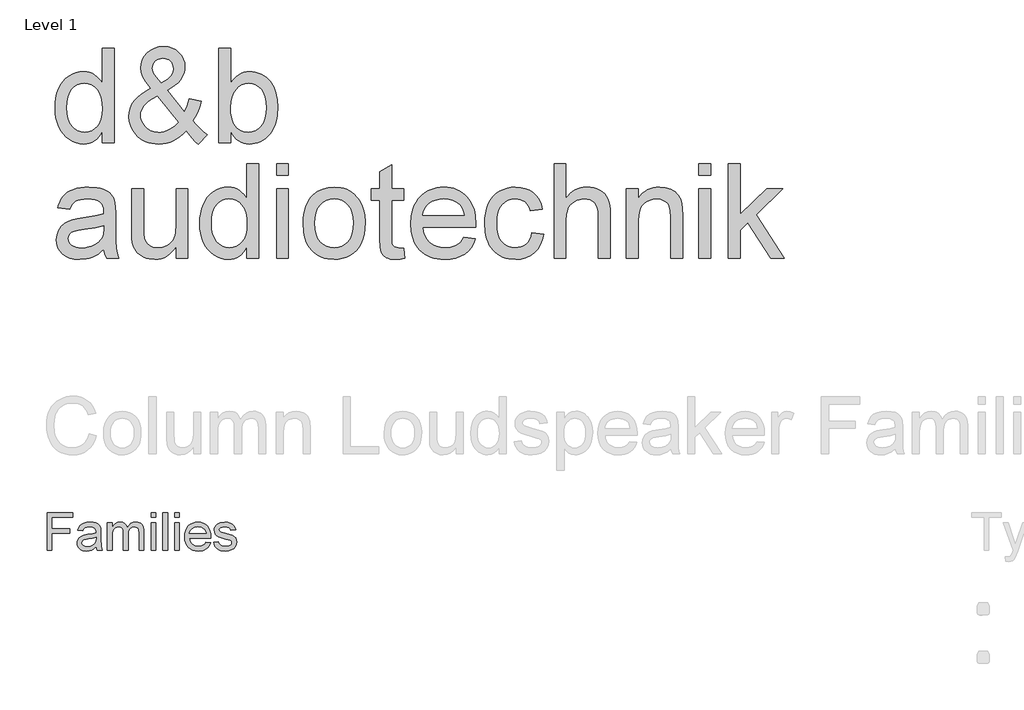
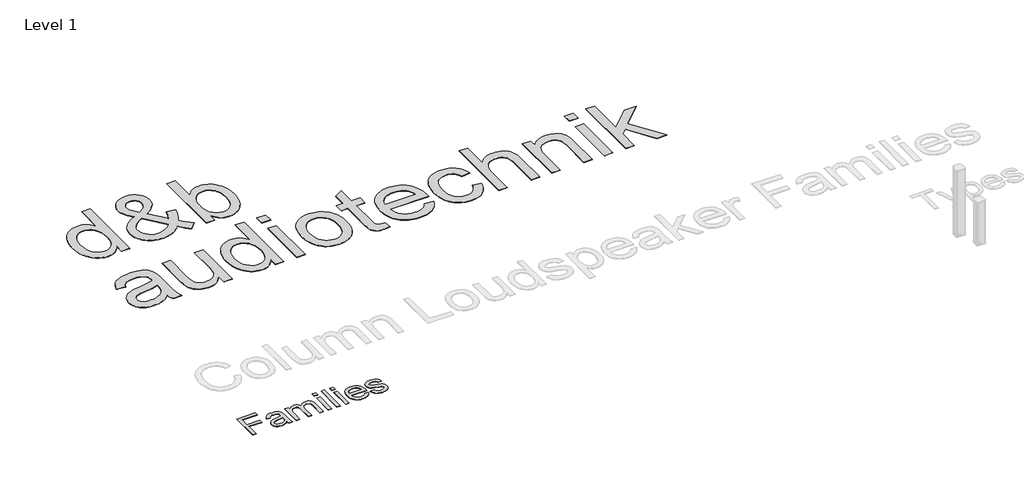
# One storey, part 5 of 8: 2 proxies.
"""IFC4 building model written with IfcOpenShell, lengths in millimetres."""

import ifcopenshell
import ifcopenshell.guid

model = None  # the IFC model being written
_history = None  # IfcOwnerHistory: only IFC2X3 demands one
_inside = {}  # id of a spatial element -> (the spatial element, [elements in it])
_under = {}  # id of a project, library or spatial element -> (it, [spatial elements below it])
_declared = {}  # id of a project -> (the project, [libraries it declares])
_typed = {}  # id of a type object -> (the type object, [elements of that type])
_made_of = {}  # id of a material, layer set ... -> (it, [elements and type objects made of it])


def new_model(schema):
    """Start an empty IFC model of exactly this schema.

    Asked for "IFC4X3", IfcOpenShell would pick the latest addendum, in which some entities
    have other attributes; the version numbers below select the first issue.
    IFC2X3 requires an IfcOwnerHistory on every rooted entity: one is made here for all.
    """
    global model, _history
    if schema == "IFC4X3":
        model = ifcopenshell.file(schema_version=(4, 3, 0, 0))
    else:
        model = ifcopenshell.file(schema=schema)
    _inside.clear()
    _under.clear()
    _declared.clear()
    _typed.clear()
    _made_of.clear()
    _history = None
    if model.schema == "IFC2X3":
        org = make("IfcOrganization", Name="unknown")
        user = make(
            "IfcPersonAndOrganization",
            ThePerson=make("IfcPerson", FamilyName="unknown"),
            TheOrganization=org,
        )
        app = make(
            "IfcApplication",
            ApplicationDeveloper=org,
            Version="unknown",
            ApplicationFullName="unknown",
            ApplicationIdentifier="unknown",
        )
        _history = make(
            "IfcOwnerHistory",
            OwningUser=user,
            OwningApplication=app,
            ChangeAction="ADDED",
            CreationDate=0,
        )
    return model


def make(cls, **values):
    """One entity of the class cls with the attributes given. An attribute that is None is left unset."""
    return model.create_entity(
        cls, **{name: value for name, value in values.items() if value is not None}
    )


def rooted(cls, **values):
    """An entity with a GlobalId (a new one), such as an element, a storey or a relation."""
    return make(cls, GlobalId=ifcopenshell.guid.new(), OwnerHistory=_history, **values)


def si_unit(unit_type, name, prefix=None):
    """IfcSIUnit, for example si_unit("LENGTHUNIT", "METRE", prefix="MILLI")."""
    return make("IfcSIUnit", UnitType=unit_type, Prefix=prefix, Name=name)


def assignment(units):
    """IfcUnitAssignment: the units of a project."""
    return None if units is None else make("IfcUnitAssignment", Units=units)


def point(xyz):
    """IfcCartesianPoint."""
    return None if xyz is None else make("IfcCartesianPoint", Coordinates=xyz)


def direction(xyz):
    """IfcDirection."""
    return None if xyz is None else make("IfcDirection", DirectionRatios=xyz)


def frame(location, z_axis=None, x_axis=None):
    """IfcAxis2Placement3D, a coordinate frame: its origin and axes. An axis left out is left unset."""
    return make(
        "IfcAxis2Placement3D",
        Location=point(location),
        Axis=direction(z_axis),
        RefDirection=direction(x_axis),
    )


def origin():
    """The frame at (0, 0, 0) with its axes left unset."""
    return frame((0.0, 0.0, 0.0))


def origin_with_axes():
    """The frame at (0, 0, 0) with the z axis (0, 0, 1) and the x axis (1, 0, 0) written out."""
    return frame((0.0, 0.0, 0.0), z_axis=(0.0, 0.0, 1.0), x_axis=(1.0, 0.0, 0.0))


def place(relative_to, where):
    """IfcLocalPlacement: puts the frame where relative to a parent placement (None: the world)."""
    return make(
        "IfcLocalPlacement", PlacementRelTo=relative_to, RelativePlacement=where
    )


def context(
    kind, dimensions, precision=None, world=None, true_north=None, identifier=None
):
    """IfcGeometricRepresentationContext, for example the 3D "Model" context."""
    return make(
        "IfcGeometricRepresentationContext",
        ContextIdentifier=identifier,
        ContextType=kind,
        CoordinateSpaceDimension=dimensions,
        Precision=precision,
        WorldCoordinateSystem=world,
        TrueNorth=true_north,
    )


def project(units=None, contexts=None):
    """IfcProject with its units and contexts."""
    return rooted(
        "IfcProject",
        Name="project",
        RepresentationContexts=contexts,
        UnitsInContext=assignment(units),
    )


def spatial(cls, under=None, at=None, **own):
    """A site, building, storey or space (cls), placed at a placement, below another one or the project."""
    s = rooted(cls, ObjectPlacement=at, **own)
    if under is not None:
        _under.setdefault(under.id(), (under, []))[1].append(s)
    return s


def polyline(points):
    """IfcPolyline through the points."""
    return make("IfcPolyline", Points=[point(p) for p in points])


def outline(outer, holes=None, kind="AREA"):
    """IfcArbitraryClosedProfileDef: a profile drawn as a closed curve; with holes, ...WithVoids."""
    if holes is None:
        return make("IfcArbitraryClosedProfileDef", ProfileType=kind, OuterCurve=outer)
    return make(
        "IfcArbitraryProfileDefWithVoids",
        ProfileType=kind,
        OuterCurve=outer,
        InnerCurves=holes,
    )


def extrude(swept, where, along, depth):
    """IfcExtrudedAreaSolid: the profile swept, set in the frame where, extruded along a direction by depth."""
    return make(
        "IfcExtrudedAreaSolid",
        SweptArea=swept,
        Position=where,
        ExtrudedDirection=direction(along),
        Depth=depth,
    )


def shape(context_of_items, identifier, shape_type, items):
    """IfcShapeRepresentation: the items that make up one representation, for example the "Body"."""
    return make(
        "IfcShapeRepresentation",
        ContextOfItems=context_of_items,
        RepresentationIdentifier=identifier,
        RepresentationType=shape_type,
        Items=items,
    )


def made_of(thing, what):
    """Note that an element or type object is made of a material, layer set ...; save() writes the relation."""
    if what is not None:
        _made_of.setdefault(what.id(), (what, []))[1].append(thing)
    return thing


def element(
    cls,
    number,
    at=None,
    inside=None,
    cuts=None,
    type_object=None,
    material=None,
    context=None,
    identifier="Body",
    shape_type=None,
    held_by="IfcProductDefinitionShape",
    body=None,
    shapes=None,
    **own,
):
    """One element of the class cls, such as IfcWall. Its Tag is "e" and its number.

    at: its placement. inside: the storey or other place that contains it. cuts: it is an
    opening in that element (IfcRelVoidsElement). A single representation is given by context,
    identifier, shape_type and body (its items); several are given by shapes. held_by: the class
    of the entity that holds the representations. save() writes the other relations.
    """
    e = rooted(cls, Tag="e%d" % number, ObjectPlacement=at, **own)
    if body is not None:
        shapes = [shape(context, identifier, shape_type, body)]
    if shapes is not None:
        e.Representation = make(held_by, Representations=shapes)
    if inside is not None:
        _inside.setdefault(inside.id(), (inside, []))[1].append(e)
    if cuts is not None:
        rooted(
            "IfcRelVoidsElement", RelatingBuildingElement=cuts, RelatedOpeningElement=e
        )
    if type_object is not None:
        _typed.setdefault(type_object.id(), (type_object, []))[1].append(e)
    return made_of(e, material)


def aggregate(whole, parts):
    """IfcRelAggregates: a whole, such as a stair, and the parts it consists of."""
    return rooted("IfcRelAggregates", RelatingObject=whole, RelatedObjects=parts)


def save(model, path):
    """Write the relations noted so far, then the file.

    IfcRelAggregates (storeys below a building ...), IfcRelContainedInSpatialStructure (elements
    in a storey), IfcRelDefinesByType, IfcRelAssociatesMaterial and IfcRelDeclares: one each for
    every whole, place, type object, material and project.
    """
    for whole, parts in _under.values():
        aggregate(whole, parts)
    for where, things in _inside.values():
        rooted(
            "IfcRelContainedInSpatialStructure",
            RelatedElements=things,
            RelatingStructure=where,
        )
    for kind, things in _typed.values():
        rooted("IfcRelDefinesByType", RelatedObjects=things, RelatingType=kind)
    for what, things in _made_of.values():
        rooted("IfcRelAssociatesMaterial", RelatedObjects=things, RelatingMaterial=what)
    for by, libraries in _declared.values():
        rooted("IfcRelDeclares", RelatingContext=by, RelatedDefinitions=libraries)
    model.write(path)


model = new_model("IFC4")

# Units and contexts
model_context = context("Model", 3, world=origin())
ifc_project = project(units=[si_unit("LENGTHUNIT", "METRE", prefix="MILLI")], contexts=[model_context])

# Site, building, storey
site = spatial("IfcSite", under=ifc_project)
building = spatial("IfcBuilding", under=site)
storey = spatial("IfcBuildingStorey", under=building, Name="Level 1", Elevation=0.0)

# Proxies
placement = place(None, origin())
element("IfcBuildingElementProxy", 1, Name="1000mm Arial", ObjectType="1000mm Arial", at=placement, inside=storey, context=model_context, shape_type="SweptSolid", body=[
    extrude(outline(polyline([(-20485.0918031, 21579.111869), (-20485.0918031, 21694.6019258), (-20502.4384754, 21663.947296), (-20521.720443, 21637.3799502), (-20542.937706, 21614.8998883), (-20566.0902643, 21596.5071105), (-20591.1781179, 21582.2016166), (-20618.2012669, 21571.9834066), (-20647.1597112, 21565.8524807), (-20678.0534508, 21563.8088387), (-20718.4630152, 21566.7678231), (-20757.1988107, 21575.6447762), (-20794.2608372, 21590.4396981), (-20829.6490948, 21611.1525887), (-20862.2577004, 21637.1632569), (-20890.9807709, 21667.8515115), (-20915.8183064, 21703.2173525), (-20936.7703069, 21743.26078), (-20953.4033857, 21787.2196312), (-20965.2841563, 21834.3317435), (-20972.4126187, 21884.597117), (-20974.7887728, 21938.0157516), (-20972.5994233, 21990.4555302), (-20966.0313746, 22040.4145442), (-20955.0846269, 22087.8927935), (-20939.75918, 22132.8902781), (-20920.0625062, 22174.0918939), (-20896.0020777, 22210.1825366), (-20867.5778945, 22241.1622064), (-20834.7899565, 22267.0309031), (-20798.7964521, 22287.429962), (-20760.7555697, 22302.0007184), (-20720.6673091, 22310.7431723), (-20678.5316705, 22313.6573235), (-20647.7163888, 22311.5725845), (-20618.6346535, 22305.3183676), (-20591.2864646, 22294.8946726), (-20565.671822, 22280.3014997), (-20542.0746689, 22262.3757332), (-20520.778948, 22241.9542577), (-20501.7846594, 22219.0370732), (-20485.0918031, 22193.6241796), (-20485.0918031, 22558.5058084), (-20362.6675607, 22558.5058084), (-20362.6675607, 21579.111869), (-20485.0918031, 21579.111869)]), holes=[polyline([(-20852.3645304, 21938.4939713), (-20848.9123819, 21879.1274792), (-20838.5559366, 21827.7562227), (-20821.2951944, 21784.3802017), (-20797.1301554, 21748.9994163), (-20768.2725855, 21721.5391447), (-20736.934251, 21701.9246649), (-20703.1151518, 21690.1559771), (-20666.815288, 21686.2330811), (-20630.3435639, 21689.9766447), (-20596.7262136, 21701.2073354), (-20565.9632372, 21719.9251532), (-20538.0546345, 21746.1300982), (-20514.8833958, 21780.0313914), (-20498.332511, 21821.8382539), (-20488.4019801, 21871.5506859), (-20485.0918031, 21929.1686872), (-20488.4617575, 21992.3385203), (-20498.5716208, 22046.5118453), (-20515.4213929, 22091.6886623), (-20539.0110739, 22127.8689713), (-20567.5323956, 22155.5907693), (-20599.1770896, 22175.3920537), (-20633.945156, 22187.2728242), (-20671.8365948, 22191.2330811), (-20708.8537882, 22187.4297401), (-20742.6728874, 22176.019717), (-20773.2938924, 22157.0030119), (-20800.7168031, 22130.3796247), (-20823.3126838, 22095.5667252), (-20839.4525986, 22051.9814831), (-20849.1365474, 21999.6238985), (-20852.3645304, 21938.4939713)])]), origin_with_axes(), (0.0, 0.0, 1.0), 5.0),
    extrude(outline(polyline([(-19617.362163, 21700.1014523), (-19647.8038355, 21668.157871), (-19679.590501, 21640.4734339), (-19712.7221594, 21617.0481409), (-19747.1988107, 21597.8819921), (-19783.0503436, 21582.9749875), (-19820.3066469, 21572.327127), (-19858.9677205, 21565.9384108), (-19899.0335645, 21563.8088387), (-19935.7219818, 21565.3854693), (-19970.4676317, 21570.1153609), (-20003.270514, 21577.9985138), (-20034.1306289, 21589.0349277), (-20063.0479762, 21603.2246028), (-20090.0225559, 21620.567539), (-20115.0543682, 21641.0637363), (-20138.143413, 21664.7131948), (-20169.42197, 21707.0505823), (-20191.7637965, 21751.8089571), (-20205.1688924, 21798.988319), (-20209.6372577, 21848.5886682), (-20206.0431377, 21892.569936), (-20195.260778, 21934.3693264), (-20177.2901785, 21973.9868394), (-20152.1313391, 22011.4224751), (-20119.829093, 22046.661289), (-20080.4282733, 22079.6883368), (-20033.9288799, 22110.5036185), (-19980.330913, 22139.1071341), (-20033.7420754, 22208.2098804), (-20065.8126838, 22262.9660357), (-20081.8629324, 22309.712011), (-20087.2130152, 22354.7842175), (-20082.9987041, 22397.569936), (-20070.3557709, 22437.4564476), (-20049.2842155, 22474.4437523), (-20019.784038, 22508.5318501), (-19983.9026163, 22537.0905326), (-19943.6873287, 22557.4895915), (-19899.138175, 22569.7290269), (-19850.2551554, 22573.8088387), (-19803.5839018, 22569.9083593), (-19761.3660692, 22558.2069211), (-19723.6016575, 22538.7045241), (-19690.2906667, 22511.4011682), (-19663.0919215, 22478.6281746), (-19643.6642463, 22442.7168643), (-19632.0076412, 22403.6672371), (-19628.1221061, 22361.4792932), (-19630.9988965, 22326.7336434), (-19639.6292676, 22293.273209), (-19654.0132194, 22261.09799), (-19674.150752, 22230.2079864), (-19700.0418653, 22200.6031983), (-19731.6865593, 22172.2836256), (-19769.084834, 22145.2492684), (-19812.2366895, 22119.5001266), (-19635.0562917, 21898.8017364), (-19604.8686734, 21961.866959), (-19582.2130152, 22034.3770205), (-19459.7887728, 22007.8358273), (-19477.213903, 21947.9836434), (-19497.4485739, 21894.4379817), (-19520.4927856, 21847.1988422), (-19546.346538, 21806.2662251), (-19512.6320493, 21763.9138931), (-19476.765572, 21725.0884315), (-19438.7471061, 21689.7898401), (-19398.5766516, 21658.018119), (-19490.3948334, 21563.8088387), (-19521.3745032, 21589.6327023), (-19552.8622813, 21620.9560925), (-19617.362163, 21700.1014523)]), holes=[polyline([(-19874.1661402, 22196.7326076), (-19810.1444783, 22237.3513931), (-19788.4004264, 22255.6657131), (-19773.500894, 22272.6499845), (-19756.2849849, 22306.9921365), (-19750.5463486, 22344.7416038), (-19752.4368108, 22367.2104574), (-19758.1081975, 22387.512378), (-19767.5605087, 22405.6473656), (-19780.7937444, 22421.6154201), (-19796.8664095, 22434.6394347), (-19814.8370091, 22443.9423022), (-19834.705543, 22449.5240228), (-19856.4720114, 22451.3845963), (-19878.7017552, 22449.5389671), (-19899.0036757, 22444.0020797), (-19917.3777732, 22434.773934), (-19933.8240474, 22421.85453), (-19947.3711148, 22406.2750289), (-19957.0475915, 22389.066592), (-19962.8534775, 22370.2292193), (-19964.7887728, 22349.7629107), (-19962.1585645, 22327.9142483), (-19954.2679395, 22304.9298141), (-19941.0571203, 22280.6900532), (-19922.4663296, 22255.0754107), (-19874.1661402, 22196.7326076)]), polyline([(-19699.376841, 21788.3329864), (-19917.9232425, 22061.1573235), (-19963.7202507, 22034.0333001), (-20001.4024684, 22007.8956048), (-20030.9698956, 21982.7442376), (-20052.4225323, 21958.5791985), (-20067.6433686, 21934.967101), (-20078.5153945, 21911.4745584), (-20085.03861, 21888.1015707), (-20087.2130152, 21864.8481379), (-20084.2390865, 21836.2446223), (-20075.3173003, 21807.1031095), (-20060.4476566, 21777.4235996), (-20039.6301554, 21747.2060925), (-20013.3579608, 21720.5304), (-19982.1242368, 21701.476334), (-19945.9289835, 21690.0438943), (-19904.7722008, 21686.2330811), (-19877.2969848, 21688.0114606), (-19849.3883822, 21693.3465991), (-19821.0463929, 21702.2384966), (-19792.2710171, 21714.6871531), (-19764.7210793, 21729.9602947), (-19740.055404, 21747.3256474), (-19718.2739912, 21766.7832113), (-19699.376841, 21788.3329864)])]), origin_with_axes(), (0.0, 0.0, 1.0), 5.0),
    extrude(outline(polyline([(-19153.7281667, 21579.111869), (-19276.1524092, 21579.111869), (-19276.1524092, 22558.5058084), (-19153.7281667, 22558.5058084), (-19153.7281667, 22195.2979485), (-19134.2481863, 22223.0384271), (-19113.468046, 22247.0801751), (-19091.3877459, 22267.4231927), (-19068.0072861, 22284.0674798), (-19043.3266664, 22297.0130364), (-19017.3458869, 22306.2598626), (-18990.0649476, 22311.8079583), (-18961.4838486, 22313.6573235), (-18929.5178507, 22311.9910268), (-18898.418626, 22306.9921365), (-18868.1861746, 22298.6606527), (-18838.8204963, 22286.9965754), (-18811.1734201, 22272.3137363), (-18786.0967747, 22254.925967), (-18763.5905602, 22234.8332675), (-18743.6547766, 22212.0356379), (-18710.3886189, 22158.7440305), (-18685.1924186, 22095.4695868), (-18669.3215024, 22024.8425153), (-18664.031197, 21949.4930243), (-18669.508307, 21862.5467056), (-18676.3546945, 21822.9964423), (-18685.9396369, 21786.0614429), (-18698.2631343, 21751.7417074), (-18713.3251867, 21720.0372359), (-18731.1257941, 21690.9480284), (-18751.6649565, 21664.4740849), (-18797.6861302, 21620.4330397), (-18822.3499374, 21603.1312005), (-18848.1158916, 21588.9751502), (-18874.9839928, 21577.9648889), (-18902.954241, 21570.1004166), (-18932.0266361, 21565.3817332), (-18962.2011781, 21563.8088387), (-18991.8694798, 21565.8375363), (-19019.9013734, 21571.9236292), (-19046.296859, 21582.0671173), (-19071.0559366, 21596.2680006), (-19094.1786062, 21614.5262792), (-19115.6648677, 21636.841953), (-19135.5147213, 21663.2150221), (-19153.7281667, 21693.6454864), (-19153.7281667, 21579.111869)]), holes=[polyline([(-19153.7281667, 21943.7543879), (-19151.6359556, 21888.5797904), (-19145.359322, 21841.6544826), (-19134.8982662, 21802.9784646), (-19120.252788, 21772.5517364), (-19090.5882224, 21734.7873247), (-19056.1115711, 21707.8127449), (-19016.8228341, 21691.6279971), (-18972.7220114, 21686.2330811), (-18936.1083159, 21690.2082823), (-18902.0650512, 21702.133886), (-18870.5922174, 21722.0098922), (-18841.6898145, 21749.8363008), (-18817.5247754, 21785.5383901), (-18800.2640332, 21829.0414381), (-18789.9075879, 21880.345445), (-18786.4554395, 21939.4504107), (-18789.7656164, 21999.6762037), (-18799.6961473, 22051.4733747), (-18816.2470322, 22094.8419234), (-18839.4182709, 22129.7818501), (-18867.2820404, 22156.6667636), (-18897.9105176, 22175.8702733), (-18931.3037024, 22187.3923792), (-18967.4615948, 22191.2330811), (-19004.0752903, 22187.2578799), (-19038.118555, 22175.3322762), (-19069.5913888, 22155.45627), (-19098.4937917, 22127.6298614), (-19122.6588308, 22092.2864369), (-19139.919573, 22049.8593832), (-19150.2760183, 22000.3487002), (-19153.7281667, 21943.7543879)])]), origin_with_axes(), (0.0, 0.0, 1.0), 5.0),
    extrude(outline(polyline([(-20469.7887728, 20473.9603538), (-20498.8182028, 20446.7167755), (-20528.2810195, 20423.8070631), (-20558.1772227, 20405.2312168), (-20588.5068126, 20390.9892364), (-20619.6135094, 20380.42357), (-20651.8410337, 20372.8766654), (-20719.6585645, 20366.8391417), (-20774.1681377, 20370.4706225), (-20821.9676909, 20381.365065), (-20863.0572239, 20399.5224691), (-20897.4367368, 20424.9428349), (-20924.5831768, 20456.0121708), (-20943.9734911, 20491.1164855), (-20955.6076796, 20530.2557788), (-20959.4857425, 20573.4300508), (-20953.6275512, 20624.1811162), (-20936.0529773, 20670.2695394), (-20908.9438983, 20709.7226644), (-20874.4821914, 20740.5678349), (-20833.9829608, 20763.8810451), (-20788.7613107, 20780.7382894), (-20744.7053211, 20790.123351), (-20682.8356478, 20799.1497478), (-20557.6616421, 20818.5176455), (-20509.331564, 20829.4569211), (-20470.5061023, 20841.2330811), (-20469.7887728, 20868.4916038), (-20471.8959283, 20898.1711138), (-20478.217395, 20923.1282042), (-20488.7531727, 20943.3628751), (-20503.5032614, 20958.8751266), (-20528.998349, 20974.3574893), (-20560.0527406, 20985.4163198), (-20596.6664362, 20992.051618), (-20638.8394357, 20994.2633841), (-20678.0534508, 20992.7913641), (-20711.7679395, 20988.3753041), (-20739.9829016, 20981.0152041), (-20762.6983372, 20970.7110641), (-20781.3638497, 20956.6558883), (-20797.4290427, 20938.042681), (-20810.893916, 20914.8714423), (-20821.7584698, 20887.142172), (-20944.1827122, 20902.4452023), (-20934.8649003, 20937.713905), (-20922.9318244, 20969.3959599), (-20908.3834846, 20997.4913671), (-20891.2198808, 21022.0001266), (-20870.7012669, 21043.4154024), (-20846.0878969, 21062.2303586), (-20817.3797707, 21078.4449952), (-20784.5768883, 21092.0593122), (-20748.3442741, 21102.8341997), (-20709.3469523, 21110.530548), (-20667.5849228, 21115.1483569), (-20623.0581857, 21116.6876266), (-20540.2962894, 21111.2478775), (-20505.3488906, 21104.4481912), (-20474.6905247, 21094.9286304), (-20425.2246748, 21070.3899822), (-20406.1631366, 21056.0359191), (-20390.8825228, 21040.29203), (-20368.1073097, 21003.0805598), (-20353.3422766, 20957.2013576), (-20348.8589669, 20914.8789144), (-20347.3645304, 20850.0801455), (-20347.3645304, 20697.767172), (-20345.8103164, 20565.0910948), (-20341.1476743, 20485.0789618), (-20331.9419452, 20432.5046839), (-20316.7584698, 20382.142172), (-20439.1827122, 20382.142172), (-20458.7897198, 20424.7037251), (-20469.7887728, 20473.9603538)]), holes=[polyline([(-20469.7887728, 20718.8088387), (-20552.0425607, 20698.4247241), (-20667.2935077, 20681.2685925), (-20730.8070612, 20671.8835309), (-20772.6213959, 20661.4224751), (-20800.0293623, 20647.8529912), (-20820.3238107, 20629.1426455), (-20832.8770777, 20606.7260972), (-20837.0615001, 20582.0380054), (-20834.7824843, 20563.013828), (-20827.9454371, 20545.6335309), (-20816.5503584, 20529.897114), (-20800.5972482, 20515.8045773), (-20780.2355501, 20504.1928053), (-20755.6147079, 20495.8986824), (-20726.7347215, 20490.9222087), (-20693.595591, 20489.2633841), (-20659.7615474, 20491.0940689), (-20627.8403827, 20496.5861233), (-20597.8320967, 20505.7395471), (-20569.7366895, 20518.5543406), (-20544.3910455, 20533.9694536), (-20522.6320493, 20550.9238363), (-20504.4597008, 20569.4174887), (-20489.8740001, 20589.4504107), (-20481.4005448, 20607.3836493), (-20475.3480768, 20629.1426455), (-20470.5061023, 20684.1379107), (-20469.7887728, 20718.8088387)])]), origin_with_axes(), (0.0, 0.0, 1.0), 5.0),
    extrude(outline(polyline([(-19719.940288, 20382.142172), (-19719.940288, 20505.7619637), (-19741.1762314, 20473.2019273), (-19764.2353874, 20444.9832291), (-19789.117756, 20421.1058691), (-19815.8233372, 20401.5698472), (-19844.352131, 20386.3751636), (-19874.7041374, 20375.5218181), (-19906.8793564, 20369.0098108), (-19940.877788, 20366.8391417), (-20000.5058064, 20372.9364429), (-20028.7730738, 20380.5580693), (-20056.00918, 20391.2283463), (-20102.575823, 20418.7259788), (-20120.7033384, 20434.8061162), (-20135.3936497, 20452.4404675), (-20157.4814219, 20493.388029), (-20171.8579016, 20542.5848804), (-20177.2378732, 20588.972191), (-20179.031197, 20656.4011682), (-20179.031197, 21101.3845963), (-20056.6069546, 21101.3845963), (-20056.6069546, 20714.0266417), (-20054.7538533, 20636.5550508), (-20049.1945493, 20589.2113008), (-20041.864338, 20567.1459451), (-20031.3509769, 20547.5762984), (-20017.6544659, 20530.5023608), (-20000.774805, 20515.9241323), (-19981.2201027, 20504.260055), (-19959.4984674, 20495.9285712), (-19935.6098991, 20490.9296809), (-19909.5543978, 20489.2633841), (-19882.7217895, 20490.9670418), (-19856.74101, 20496.0780148), (-19831.6120594, 20504.5963032), (-19807.3349376, 20516.5219069), (-19785.2247488, 20531.3840784), (-19766.5965971, 20548.7120702), (-19751.4504827, 20568.5058824), (-19739.7864054, 20590.7655148), (-19731.103729, 20616.9106823), (-19724.9018173, 20648.3610996), (-19719.940288, 20727.1776834), (-19719.940288, 21101.3845963), (-19597.5160455, 21101.3845963), (-19597.5160455, 20382.142172), (-19719.940288, 20382.142172)])), origin_with_axes(), (0.0, 0.0, 1.0), 5.0),
    extrude(outline(polyline([(-18985.3948334, 20382.142172), (-18985.3948334, 20497.6322288), (-19002.7415057, 20466.977599), (-19022.0234733, 20440.4102532), (-19043.2407363, 20417.9301914), (-19066.3932946, 20399.5374135), (-19091.4811482, 20385.2319196), (-19118.5042972, 20375.0137097), (-19147.4627415, 20368.8827837), (-19178.3564811, 20366.8391417), (-19218.7660455, 20369.7981261), (-19257.501841, 20378.6750792), (-19294.5638675, 20393.4700011), (-19329.9521251, 20414.1828917), (-19362.5607307, 20440.1935599), (-19391.2838012, 20470.8818145), (-19416.1213367, 20506.2476556), (-19437.0733372, 20546.291083), (-19453.706416, 20590.2499342), (-19465.5871866, 20637.3620466), (-19472.715649, 20687.62742), (-19475.0918031, 20741.0460546), (-19472.9024536, 20793.4858332), (-19466.3344049, 20843.4448472), (-19455.3876572, 20890.9230965), (-19440.0622103, 20935.9205811), (-19420.3655365, 20977.1221969), (-19396.305108, 21013.2128396), (-19367.8809248, 21044.1925094), (-19335.0929868, 21070.0612061), (-19299.0994824, 21090.4602651), (-19261.0586, 21105.0310215), (-19220.9703394, 21113.7734753), (-19178.8347008, 21116.6876266), (-19148.0194191, 21114.6028876), (-19118.9376838, 21108.3486706), (-19091.5894949, 21097.9249756), (-19065.9748523, 21083.3318027), (-19042.3776992, 21065.4060363), (-19021.0819783, 21044.9845608), (-19002.0876897, 21022.0673762), (-18985.3948334, 20996.6544826), (-18985.3948334, 21361.5361114), (-18862.970591, 21361.5361114), (-18862.970591, 20382.142172), (-18985.3948334, 20382.142172)]), holes=[polyline([(-19352.6675607, 20741.5242743), (-19349.2154122, 20682.1577822), (-19338.8589669, 20630.7865257), (-19321.5982247, 20587.4105048), (-19297.4331857, 20552.0297194), (-19268.5756158, 20524.5694477), (-19237.2372813, 20504.954968), (-19203.4181821, 20493.1862801), (-19167.1183183, 20489.2633841), (-19130.6465942, 20493.0069477), (-19097.0292439, 20504.2376384), (-19066.2662675, 20522.9554562), (-19038.3576648, 20549.1604012), (-19015.1864261, 20583.0616944), (-18998.6355413, 20624.868557), (-18988.7050104, 20674.5809889), (-18985.3948334, 20732.1989902), (-18988.7647878, 20795.3688233), (-18998.8746511, 20849.5421483), (-19015.7244233, 20894.7189653), (-19039.3141042, 20930.8992743), (-19067.8354259, 20958.6210724), (-19099.4801199, 20978.4223567), (-19134.2481863, 20990.3031273), (-19172.1396251, 20994.2633841), (-19209.1568185, 20990.4600431), (-19242.9759177, 20979.05002), (-19273.5969227, 20960.0333149), (-19301.0198334, 20933.4099277), (-19323.6157141, 20898.5970282), (-19339.7556289, 20855.0117861), (-19349.4395777, 20802.6542015), (-19352.6675607, 20741.5242743)])]), origin_with_axes(), (0.0, 0.0, 1.0), 5.0),
    extrude(outline(polyline([(-18679.3342273, 20382.142172), (-18679.3342273, 21101.3845963), (-18556.9099849, 21101.3845963), (-18556.9099849, 20382.142172), (-18679.3342273, 20382.142172)])), origin_with_axes(), (0.0, 0.0, 1.0), 5.0),
    extrude(outline(polyline([(-18679.3342273, 21239.111869), (-18679.3342273, 21361.5361114), (-18556.9099849, 21361.5361114), (-18556.9099849, 21239.111869), (-18679.3342273, 21239.111869)])), origin_with_axes(), (0.0, 0.0, 1.0), 5.0),
    extrude(outline(polyline([(-18403.8796819, 20741.7633841), (-18402.2245934, 20789.9477547), (-18397.259328, 20834.9116145), (-18388.9838856, 20876.6549635), (-18377.3982662, 20915.1778018), (-18362.5024698, 20950.4801292), (-18344.2964965, 20982.5619459), (-18322.7803463, 21011.4232519), (-18297.954019, 21037.064047), (-18251.2977098, 21071.8993631), (-18199.7994262, 21096.7817317), (-18143.4591682, 21111.7111528), (-18082.2769357, 21116.6876266), (-18014.7358757, 21110.6276863), (-17983.391937, 21103.0527611), (-17953.6657259, 21092.4478657), (-17925.5572424, 21078.8130002), (-17899.0664865, 21062.1481646), (-17874.1934581, 21042.4533588), (-17850.9381573, 21019.728583), (-17829.8946226, 20994.3325018), (-17811.6568925, 20966.6237801), (-17796.224967, 20936.6024178), (-17783.5988462, 20904.2684149), (-17773.77853, 20869.6217715), (-17766.7640184, 20832.6624875), (-17761.1524092, 20751.8059978), (-17763.6331738, 20686.2749549), (-17771.0754679, 20628.1264287), (-17783.4792913, 20577.3604189), (-17800.844644, 20533.9769258), (-17822.9548328, 20496.5039292), (-17849.5931644, 20463.4694092), (-17880.7596387, 20434.8733658), (-17916.4542558, 20410.7157989), (-17955.2871896, 20391.5197614), (-17995.8686142, 20377.808306), (-18038.1985295, 20369.5814328), (-18082.2769357, 20366.8391417), (-18150.8043238, 20372.8766654), (-18182.4845107, 20380.42357), (-18212.4423594, 20390.9892364), (-18240.6778701, 20404.5736647), (-18267.1910426, 20421.1768548), (-18291.9818769, 20440.7988067), (-18315.0503732, 20463.4395205), (-18335.8697424, 20488.9196637), (-18353.9131957, 20517.059904), (-18369.1807332, 20547.8602414), (-18381.6723547, 20581.3206758), (-18391.3880604, 20617.4412073), (-18398.3278501, 20656.2218358), (-18403.8796819, 20741.7633841)]), holes=[polyline([(-18281.4554395, 20742.002494), (-18277.9136248, 20682.6210576), (-18267.2881809, 20631.204968), (-18249.5791078, 20587.7542252), (-18224.7864054, 20552.2688292), (-18194.6286757, 20524.703947), (-18160.8245209, 20505.0147454), (-18123.3739409, 20493.2012245), (-18082.2769357, 20489.2633841), (-18041.3891516, 20493.223641), (-18004.0880152, 20505.1044116), (-17970.3735266, 20524.9056959), (-17940.2456857, 20552.627494), (-17915.4529833, 20588.4640825), (-17897.7439101, 20632.6097383), (-17887.1184662, 20685.0644613), (-17883.5766516, 20745.8282516), (-17887.1408828, 20803.3266979), (-17897.8335763, 20853.3977947), (-17915.6547322, 20896.0415417), (-17940.6043505, 20931.2579391), (-17970.8442741, 20958.8228213), (-18004.5363462, 20978.5120229), (-18041.6805667, 20990.3255438), (-18082.2769357, 20994.2633841), (-18123.3739409, 20990.3404882), (-18160.8245209, 20978.5718003), (-18194.6286757, 20958.9573206), (-18224.7864054, 20931.4970489), (-18249.5791078, 20896.1162635), (-18267.2881809, 20852.7402426), (-18277.9136248, 20801.3689861), (-18281.4554395, 20742.002494)])]), origin_with_axes(), (0.0, 0.0, 1.0), 5.0),
    extrude(outline(polyline([(-17363.2736213, 20484.2420773), (-17347.970591, 20378.5555243), (-17396.4501128, 20369.7682374), (-17439.549663, 20366.8391417), (-17498.3109082, 20371.920226), (-17522.0873938, 20378.2715814), (-17542.127788, 20387.1634788), (-17573.0925133, 20410.6560215), (-17593.2972955, 20440.4849751), (-17599.7831502, 20461.5415861), (-17604.4159035, 20491.7142601), (-17608.1221061, 20579.407797), (-17608.1221061, 20978.9603538), (-17699.940288, 20978.9603538), (-17699.940288, 21101.3845963), (-17608.1221061, 21101.3845963), (-17608.1221061, 21276.1738955), (-17485.6978637, 21348.1459599), (-17485.6978637, 21101.3845963), (-17363.2736213, 21101.3845963), (-17363.2736213, 20978.9603538), (-17485.6978637, 20978.9603538), (-17485.6978637, 20582.9944448), (-17484.0838722, 20542.7044353), (-17479.2418978, 20519.8694448), (-17470.7833869, 20507.2265115), (-17458.3197861, 20497.5126739), (-17440.655546, 20491.3257066), (-17416.5951175, 20489.2633841), (-17363.2736213, 20484.2420773)])), origin_with_axes(), (0.0, 0.0, 1.0), 5.0),
    extrude(outline(polyline([(-16737.284038, 20596.3845963), (-16617.250894, 20581.081566), (-16635.6548802, 20533.0055421), (-16660.4998879, 20490.6382658), (-16691.7859171, 20453.9797371), (-16729.5129679, 20423.0299561), (-16773.2924867, 20398.4464748), (-16822.7359201, 20380.8868453), (-16877.8432679, 20370.3510676), (-16938.6145304, 20366.8391417), (-16977.6305327, 20368.3541268), (-17014.5767404, 20372.8990819), (-17049.4531534, 20380.4740072), (-17082.2597719, 20391.0789026), (-17112.9965957, 20404.7137681), (-17141.6636248, 20421.3786037), (-17168.2608594, 20441.0734094), (-17192.7882993, 20463.7981853), (-17214.812558, 20489.25778), (-17233.9002489, 20517.1570424), (-17250.0513719, 20547.4959725), (-17263.2659272, 20580.2745702), (-17273.5439146, 20615.4928356), (-17280.8853341, 20653.1507687), (-17286.7584698, 20735.7856379), (-17280.8255567, 20821.2225757), (-17273.4094153, 20860.1414396), (-17263.0268173, 20896.5272336), (-17249.6777628, 20930.3799576), (-17233.3622517, 20961.6996117), (-17214.0802841, 20990.4861958), (-17191.8318599, 21016.7397099), (-17167.2184899, 21040.1650029), (-17140.8416847, 21060.4669234), (-17112.7014444, 21077.6454716), (-17082.797769, 21091.7006474), (-17051.1306585, 21102.6324508), (-17017.7001128, 21110.4408818), (-16982.5061319, 21115.1259404), (-16945.548716, 21116.6876266), (-16909.7999256, 21115.1296765), (-16875.721168, 21110.4558261), (-16843.3124433, 21102.6660756), (-16812.5737515, 21091.7604249), (-16783.5050925, 21077.7388739), (-16756.1064663, 21060.6014227), (-16730.377873, 21040.3480713), (-16706.3193126, 21016.9788198), (-16684.54724, 20990.7850831), (-16665.6781105, 20962.0582764), (-16649.711924, 20930.7983998), (-16636.6486805, 20897.0054533), (-16626.48838, 20860.6794368), (-16619.2310224, 20821.8203503), (-16613.4251364, 20736.5029675), (-16614.142466, 20703.5058084), (-17164.3342273, 20703.5058084), (-17157.2431259, 20654.6526775), (-17143.143117, 20611.866959), (-17122.0342007, 20575.1486528), (-17093.916377, 20544.4977591), (-17060.3438598, 20520.3327201), (-17022.8708632, 20503.0719779), (-16981.4973873, 20492.7155326), (-16936.2234319, 20489.2633841), (-16902.3594996, 20490.8624313), (-16871.0659982, 20495.6595726), (-16842.3429276, 20503.6548082), (-16816.190288, 20514.8481379), (-16792.6080791, 20529.5384492), (-16771.5963012, 20548.0246294), (-16753.1549541, 20570.3066784), (-16737.284038, 20596.3845963)]), holes=[polyline([(-17164.3342273, 20825.9300508), (-16735.8493789, 20825.9300508), (-16742.1409568, 20860.5710901), (-16752.4077359, 20890.6092648), (-16766.6497162, 20916.044575), (-16784.8668978, 20936.8770205), (-16818.2526104, 20961.9835546), (-16856.2411876, 20979.9167932), (-16898.8326293, 20990.6767364), (-16946.0269357, 20994.2633841), (-16989.0741806, 20991.4015381), (-17028.5497221, 20982.8160001), (-17064.4535603, 20968.5067702), (-17096.7856952, 20948.4738482), (-17123.9171908, 20923.6437848), (-17144.2191113, 20894.9431308), (-17157.6914569, 20862.3718862), (-17164.3342273, 20825.9300508)])]), origin_with_axes(), (0.0, 0.0, 1.0), 5.0),
    extrude(outline(polyline([(-16031.9099849, 20642.2936872), (-15909.4857425, 20626.9906569), (-15922.8011722, 20569.2232119), (-15943.6186734, 20518.1060096), (-15971.9382461, 20473.63905), (-16007.7598902, 20435.822333), (-16049.574225, 20405.6421868), (-16095.8718694, 20384.0849395), (-16146.6528235, 20371.1505912), (-16201.9170872, 20366.8391417), (-16270.5789746, 20372.8542488), (-16302.2479532, 20380.3731328), (-16332.1422884, 20390.8995702), (-16360.2619802, 20404.4335613), (-16386.6070286, 20420.9751059), (-16411.1774336, 20440.524204), (-16433.9731952, 20463.0808557), (-16454.5123575, 20488.4470482), (-16472.3129649, 20516.4247685), (-16487.3750173, 20547.0140167), (-16499.6985148, 20580.2147928), (-16509.2834572, 20616.0270967), (-16516.1298447, 20654.4509285), (-16521.6069546, 20739.1331758), (-16519.2681614, 20795.4211286), (-16512.2517818, 20848.0776005), (-16500.5578158, 20897.1025916), (-16484.1862633, 20942.4961019), (-16463.0250417, 20983.3465251), (-16436.9620683, 21018.7422549), (-16405.9973429, 21048.6832912), (-16370.1308656, 21073.1696341), (-16330.9841001, 21092.2087558), (-16290.17851, 21105.8081285), (-16247.7140954, 21113.967752), (-16203.5908561, 21116.6876266), (-16149.2755596, 21112.9515352), (-16100.1459579, 21101.743261), (-16056.2020511, 21083.0628041), (-16017.4438391, 21056.9101644), (-15984.528874, 21023.8831166), (-15958.1147079, 20984.5794353), (-15938.2013409, 20938.9991204), (-15924.7887728, 20887.142172), (-16047.2130152, 20871.8391417), (-16056.769937, 20900.4351852), (-16069.4203424, 20925.2503041), (-16085.1642315, 20946.2844986), (-16104.0016042, 20963.5377686), (-16125.454241, 20976.9802254), (-16149.0439219, 20986.5819803), (-16174.7706472, 20992.3430332), (-16202.6344167, 20994.2633841), (-16244.2320582, 20990.4824597), (-16281.7498879, 20979.1396862), (-16315.1879057, 20960.2350638), (-16344.5461118, 20933.7685925), (-16368.4496245, 20899.1275532), (-16385.5235621, 20855.6992269), (-16395.7679247, 20803.4836138), (-16399.1827122, 20742.4807137), (-16395.8426465, 20680.5587351), (-16385.8224494, 20627.7378751), (-16369.1221209, 20584.0181338), (-16345.7416611, 20549.399511), (-16316.9662852, 20523.0899555), (-16284.0812089, 20504.2974159), (-16247.086432, 20493.0218921), (-16205.9819546, 20489.2633841), (-16172.8577684, 20491.6096495), (-16142.587956, 20498.6484457), (-16115.1725175, 20510.3797726), (-16090.6114527, 20526.8036304), (-16069.5922026, 20548.0993512), (-16052.8022079, 20574.4462677), (-16040.2414687, 20605.8443796), (-16031.9099849, 20642.2936872)])), origin_with_axes(), (0.0, 0.0, 1.0), 5.0),
    extrude(outline(polyline([(-15802.3645304, 20382.142172), (-15802.3645304, 21361.5361114), (-15679.940288, 21361.5361114), (-15679.940288, 21001.4366796), (-15658.1476669, 21028.4486203), (-15634.9726921, 21051.8589689), (-15610.4153634, 21071.6677254), (-15584.4756809, 21087.8748898), (-15557.1536447, 21100.4804622), (-15528.4492546, 21109.4844424), (-15498.3625107, 21114.8868305), (-15466.893413, 21116.6876266), (-15428.6208928, 21114.7224425), (-15392.9486923, 21108.8268903), (-15359.8768114, 21099.00097), (-15329.4052501, 21085.2446815), (-15302.3111154, 21068.0213002), (-15279.3715143, 21047.7941015), (-15260.5864468, 21024.5630853), (-15245.955913, 20998.3282516), (-15234.9718043, 20967.4681367), (-15227.1260124, 20930.3612771), (-15222.4185372, 20887.0076727), (-15220.8493789, 20837.4073235), (-15220.8493789, 20382.142172), (-15343.2736213, 20382.142172), (-15343.2736213, 20824.7345016), (-15345.7095529, 20866.0706166), (-15353.0173476, 20901.369208), (-15365.1970055, 20930.6302757), (-15382.2485266, 20953.8538198), (-15403.768413, 20971.5330042), (-15429.3531667, 20984.160993), (-15459.002788, 20991.7377864), (-15492.7172766, 20994.2633841), (-15518.981999, 20992.5597265), (-15544.4546701, 20987.4487535), (-15569.1352897, 20978.9304651), (-15593.023858, 20967.0048614), (-15614.8276873, 20952.1651064), (-15633.25409, 20934.9043643), (-15648.3030661, 20915.2226349), (-15659.9746156, 20893.1199182), (-15668.7095973, 20867.5799975), (-15674.9488699, 20837.5866559), (-15679.940288, 20764.2397099), (-15679.940288, 20382.142172), (-15802.3645304, 20382.142172)])), origin_with_axes(), (0.0, 0.0, 1.0), 5.0),
    extrude(outline(polyline([(-15052.5160455, 20382.142172), (-15052.5160455, 21101.3845963), (-14930.0918031, 21101.3845963), (-14930.0918031, 21000.9584599), (-14909.8944931, 21028.0824833), (-14887.5601388, 21051.5899703), (-14863.0887403, 21071.4809208), (-14836.4802974, 21087.7553349), (-14807.7348103, 21100.4132125), (-14776.852279, 21109.4545537), (-14743.8327033, 21114.8793583), (-14708.6760834, 21116.6876266), (-14648.3307354, 21110.859324), (-14593.0664717, 21093.3744163), (-14568.3634354, 21080.8062049), (-14546.9780484, 21066.4147809), (-14528.9103104, 21050.2001443), (-14514.1602217, 21032.1622951), (-14491.893117, 20990.7066251), (-14477.4568599, 20942.1374372), (-14472.6148855, 20895.6903491), (-14471.000894, 20823.7780622), (-14471.000894, 20382.142172), (-14593.4251364, 20382.142172), (-14593.4251364, 20807.2794826), (-14596.9520067, 20870.583815), (-14607.5326175, 20915.596244), (-14615.9388231, 20932.6253485), (-14627.0499589, 20947.8461848), (-14657.3870209, 20972.8630527), (-14696.27226, 20988.9133013), (-14741.4341327, 20994.2633841), (-14778.6082419, 20991.2595667), (-14813.1371985, 20982.2481143), (-14845.0210023, 20967.2290269), (-14874.2596535, 20946.2023046), (-14898.6862189, 20916.7768489), (-14916.1337657, 20876.5615612), (-14926.6022938, 20825.5564417), (-14930.0918031, 20763.7614902), (-14930.0918031, 20382.142172), (-15052.5160455, 20382.142172)])), origin_with_axes(), (0.0, 0.0, 1.0), 5.0),
    extrude(outline(polyline([(-14302.6675607, 20382.142172), (-14302.6675607, 21101.3845963), (-14180.2433183, 21101.3845963), (-14180.2433183, 20382.142172), (-14302.6675607, 20382.142172)])), origin_with_axes(), (0.0, 0.0, 1.0), 5.0),
    extrude(outline(polyline([(-14302.6675607, 21239.111869), (-14302.6675607, 21361.5361114), (-14180.2433183, 21361.5361114), (-14180.2433183, 21239.111869), (-14302.6675607, 21239.111869)])), origin_with_axes(), (0.0, 0.0, 1.0), 5.0),
    extrude(outline(polyline([(-13996.6069546, 20382.142172), (-13996.6069546, 21361.5361114), (-13874.1827122, 21361.5361114), (-13874.1827122, 20835.2553349), (-13599.6846061, 21101.3845963), (-13430.3948334, 21101.3845963), (-13708.2404773, 20831.907797), (-13415.0918031, 20382.142172), (-13558.0794925, 20382.142172), (-13795.9937917, 20746.784691), (-13874.1827122, 20670.986869), (-13874.1827122, 20382.142172), (-13996.6069546, 20382.142172)])), origin_with_axes(), (0.0, 0.0, 1.0), 5.0),
])
element("IfcBuildingElementProxy", 2, Name="400mm Arial", ObjectType="400mm Arial", at=placement, inside=storey, context=model_context, shape_type="SweptSolid", body=[
    extrude(outline(polyline([(-21056.720891, 17351.3054836), (-21056.720891, 17743.0630593), (-20793.5087698, 17743.0630593), (-20793.5087698, 17694.0933624), (-21007.7511941, 17694.0933624), (-21007.7511941, 17577.7903321), (-20824.1148304, 17577.7903321), (-20824.1148304, 17528.8206351), (-21007.7511941, 17528.8206351), (-21007.7511941, 17351.3054836), (-21056.720891, 17351.3054836)])), origin_with_axes(), (0.0, 0.0, 1.0), 5.0),
    extrude(outline(polyline([(-20548.660285, 17388.0327563), (-20572.0571836, 17367.97144), (-20596.1475009, 17354.8443093), (-20621.4811893, 17347.5992809), (-20648.6082016, 17345.1842715), (-20670.4120309, 17346.6368638), (-20689.5318522, 17350.9946408), (-20705.9676654, 17358.2576024), (-20719.7194706, 17368.4257487), (-20730.5780466, 17380.8534831), (-20738.3341723, 17394.895209), (-20742.9878477, 17410.5509263), (-20744.5390729, 17427.8206351), (-20742.1957963, 17448.1210612), (-20735.1659668, 17466.5564305), (-20724.3223352, 17482.3376805), (-20710.5376524, 17494.6757487), (-20676.2493001, 17510.7439305), (-20633.879035, 17518.1085139), (-20583.8094327, 17525.855673), (-20548.9472168, 17534.9418472), (-20548.660285, 17545.8452563), (-20552.0317338, 17567.6998965), (-20562.1460804, 17581.9986654), (-20584.7658721, 17592.6151427), (-20616.2805501, 17596.1539684), (-20645.4519516, 17593.7987364), (-20665.8241107, 17586.7330404), (-20679.7163929, 17573.6656872), (-20689.4481638, 17553.3054836), (-20738.4178607, 17559.4266957), (-20729.9175056, 17586.2069987), (-20717.2327282, 17607.2486654), (-20699.1799346, 17623.3407582), (-20674.5755312, 17635.2723396), (-20644.4835568, 17642.660834), (-20609.9680501, 17645.1236654), (-20576.8632916, 17642.9477658), (-20550.6209857, 17636.4200669), (-20530.8346458, 17626.6046076), (-20517.097785, 17614.5654268), (-20507.9876997, 17599.6808387), (-20502.0816865, 17581.3291578), (-20499.690588, 17538.480673), (-20499.690588, 17477.5554836), (-20497.2038456, 17392.4801995), (-20487.4481638, 17351.3054836), (-20536.4178607, 17351.3054836), (-20544.2606638, 17368.3301048), (-20548.660285, 17388.0327563)]), holes=[polyline([(-20548.660285, 17485.9721502), (-20581.5618001, 17477.8185044), (-20627.6621789, 17470.9560518), (-20669.7933342, 17463.0176048), (-20680.7565208, 17457.5898112), (-20688.8743001, 17450.105673), (-20693.8956069, 17441.1390536), (-20695.5693759, 17431.2638169), (-20691.9229507, 17416.7020271), (-20680.9836751, 17404.7704457), (-20662.990659, 17396.8080877), (-20638.1830122, 17394.1539684), (-20611.8809289, 17397.0830641), (-20588.6394516, 17405.870351), (-20569.7975956, 17418.8181493), (-20556.6943759, 17434.228779), (-20550.8840066, 17450.105673), (-20548.9472168, 17472.103779), (-20548.660285, 17485.9721502)])]), origin_with_axes(), (0.0, 0.0, 1.0), 5.0),
    extrude(outline(polyline([(-20432.3572547, 17351.3054836), (-20432.3572547, 17639.0024533), (-20383.3875577, 17639.0024533), (-20383.3875577, 17591.6587033), (-20368.658391, 17613.405744), (-20349.720891, 17630.4423207), (-20327.2206543, 17641.4533292), (-20301.8032774, 17645.1236654), (-20274.5686657, 17641.3815963), (-20252.7379365, 17630.1553889), (-20236.4306448, 17612.1862838), (-20225.7663456, 17588.2155215), (-20207.9167954, 17613.1128344), (-20187.5565918, 17630.8966294), (-20164.6857348, 17641.5669064), (-20139.3042244, 17645.1236654), (-20119.7002057, 17643.6441732), (-20102.4932632, 17639.2056966), (-20087.683397, 17631.8082357), (-20075.2706069, 17621.4517904), (-20065.4581365, 17608.0168058), (-20058.4492291, 17591.3837269), (-20054.2438846, 17571.5525539), (-20052.8421032, 17548.5232866), (-20052.8421032, 17351.3054836), (-20101.8118001, 17351.3054836), (-20101.8118001, 17527.4816199), (-20106.3548872, 17568.369404), (-20112.7391202, 17579.6434334), (-20122.8056448, 17588.5024533), (-20135.7534431, 17594.2410896), (-20150.7814971, 17596.1539684), (-20177.3107348, 17591.2522165), (-20198.9382206, 17576.5469608), (-20207.3279874, 17565.2669537), (-20213.320678, 17551.03394), (-20218.1148304, 17513.7088927), (-20218.1148304, 17351.3054836), (-20267.0845274, 17351.3054836), (-20267.0845274, 17532.9333245), (-20269.9179791, 17560.6222449), (-20278.4183342, 17580.3727184), (-20293.3746552, 17592.2086559), (-20315.5760047, 17596.1539684), (-20334.4417717, 17593.5237601), (-20351.8250577, 17585.6331351), (-20366.1716486, 17572.6733813), (-20375.9273304, 17554.8357866), (-20381.5225009, 17530.0879173), (-20383.3875577, 17496.3973396), (-20383.3875577, 17351.3054836), (-20432.3572547, 17351.3054836)])), origin_with_axes(), (0.0, 0.0, 1.0), 5.0),
    extrude(outline(polyline([(-19979.3875577, 17351.3054836), (-19979.3875577, 17639.0024533), (-19930.4178607, 17639.0024533), (-19930.4178607, 17351.3054836), (-19979.3875577, 17351.3054836)])), origin_with_axes(), (0.0, 0.0, 1.0), 5.0),
    extrude(outline(polyline([(-19979.3875577, 17694.0933624), (-19979.3875577, 17743.0630593), (-19930.4178607, 17743.0630593), (-19930.4178607, 17694.0933624), (-19979.3875577, 17694.0933624)])), origin_with_axes(), (0.0, 0.0, 1.0), 5.0),
    extrude(outline(polyline([(-19856.9633153, 17351.3054836), (-19856.9633153, 17743.0630593), (-19807.9936183, 17743.0630593), (-19807.9936183, 17351.3054836), (-19856.9633153, 17351.3054836)])), origin_with_axes(), (0.0, 0.0, 1.0), 5.0),
    extrude(outline(polyline([(-19734.5390729, 17351.3054836), (-19734.5390729, 17639.0024533), (-19685.5693759, 17639.0024533), (-19685.5693759, 17351.3054836), (-19734.5390729, 17351.3054836)])), origin_with_axes(), (0.0, 0.0, 1.0), 5.0),
    extrude(outline(polyline([(-19734.5390729, 17694.0933624), (-19734.5390729, 17743.0630593), (-19685.5693759, 17743.0630593), (-19685.5693759, 17694.0933624), (-19734.5390729, 17694.0933624)])), origin_with_axes(), (0.0, 0.0, 1.0), 5.0),
    extrude(outline(polyline([(-19410.6886941, 17437.0024533), (-19362.6754365, 17430.8812411), (-19370.0370309, 17411.6508316), (-19379.975034, 17394.7039211), (-19392.4894457, 17380.0405096), (-19407.580266, 17367.6605972), (-19425.0920736, 17357.8272047), (-19444.8694469, 17350.8033529), (-19491.220891, 17345.1842715), (-19521.605775, 17347.6082475), (-19548.6789876, 17354.8801758), (-19572.4405288, 17367.0000563), (-19592.8903986, 17383.9678889), (-19609.3351784, 17405.3114317), (-19621.0814497, 17430.5584429), (-19628.1292125, 17459.7089223), (-19630.4784668, 17492.7628699), (-19628.1053015, 17526.937645), (-19620.9858058, 17557.0595082), (-19609.1199796, 17583.1284594), (-19592.5078229, 17605.1444987), (-19572.1117528, 17622.6353841), (-19548.8941865, 17635.1288737), (-19522.855124, 17642.6249675), (-19493.9945653, 17645.1236654), (-19466.0635461, 17642.6309452), (-19440.8045795, 17635.1527847), (-19418.2176654, 17622.6891839), (-19398.3028039, 17605.2401427), (-19382.0463231, 17583.2719253), (-19370.4345511, 17557.2507961), (-19363.4674879, 17527.1767549), (-19361.1451335, 17493.0498018), (-19361.4320653, 17479.8509381), (-19581.5087698, 17479.8509381), (-19578.6723292, 17460.3096858), (-19573.0323257, 17443.1953983), (-19564.5887592, 17428.5080759), (-19553.3416297, 17416.2477184), (-19524.9234242, 17399.6774059), (-19490.2644516, 17394.1539684), (-19464.2014782, 17396.7124438), (-19442.2511941, 17404.3878699), (-19424.4135994, 17417.6584665), (-19410.6886941, 17437.0024533)]), holes=[polyline([(-19581.5087698, 17528.8206351), (-19410.1148304, 17528.8206351), (-19416.7381732, 17554.6923207), (-19429.721838, 17573.199423), (-19443.076123, 17583.2420366), (-19458.2715539, 17590.4153321), (-19494.1858532, 17596.1539684), (-19527.1949677, 17591.5750148), (-19554.4893569, 17577.838154), (-19573.4627234, 17556.4258671), (-19581.5087698, 17528.8206351)])]), origin_with_axes(), (0.0, 0.0, 1.0), 5.0),
    extrude(outline(polyline([(-19330.5390729, 17437.0024533), (-19281.5693759, 17443.1236654), (-19273.8461278, 17422.1776427), (-19258.9017622, 17406.7789684), (-19236.6406354, 17397.3102184), (-19206.9671032, 17394.1539684), (-19177.6522357, 17397.0471976), (-19157.0409668, 17405.7268851), (-19144.8463645, 17418.3040631), (-19140.7814971, 17432.8897639), (-19144.8702755, 17445.371298), (-19157.1366107, 17454.8878699), (-19207.5409668, 17468.8518851), (-19281.2824441, 17492.8106919), (-19299.9449677, 17504.8498728), (-19313.4666297, 17520.7865442), (-19321.680053, 17539.6044893), (-19324.4178607, 17560.2874911), (-19322.2180501, 17579.2608576), (-19315.6186183, 17596.775654), (-19305.2173399, 17612.1384618), (-19291.6119895, 17624.6558624), (-19260.4798872, 17639.1459192), (-19218.3487319, 17645.1236654), (-19186.4753891, 17642.7206114), (-19158.7625577, 17635.5114495), (-19136.4775198, 17624.2015536), (-19120.8875577, 17609.496298), (-19110.5580122, 17590.3077326), (-19104.0542244, 17565.5479078), (-19153.0239213, 17559.4266957), (-19159.2049109, 17574.8373254), (-19171.4353797, 17586.4461086), (-19189.8348825, 17593.7270035), (-19214.5229744, 17596.1539684), (-19242.6422925, 17593.8346029), (-19261.3885047, 17586.8765063), (-19271.933249, 17576.8338927), (-19275.4481638, 17565.260976), (-19269.6138835, 17551.010029), (-19251.345891, 17540.2022639), (-19209.1669138, 17529.7770745), (-19137.2904933, 17506.7268851), (-19118.3051713, 17495.7039211), (-19103.9107585, 17480.6160896), (-19094.8365397, 17461.4155688), (-19091.8118001, 17438.0545366), (-19095.3625814, 17413.9044419), (-19106.0149251, 17391.1890063), (-19123.3623446, 17371.6895982), (-19146.9983532, 17357.1875858), (-19175.5480691, 17348.1851), (-19207.6366107, 17345.1842715), (-19233.9924938, 17346.630886), (-19257.0127944, 17350.9707298), (-19276.6975127, 17358.2038027), (-19293.0466486, 17368.3301048), (-19306.4009336, 17381.3018141), (-19317.1010994, 17397.0711086), (-19325.1471458, 17415.6379883), (-19330.5390729, 17437.0024533)])), origin_with_axes(), (0.0, 0.0, 1.0), 5.0),
])

save(model, "model.ifc")
